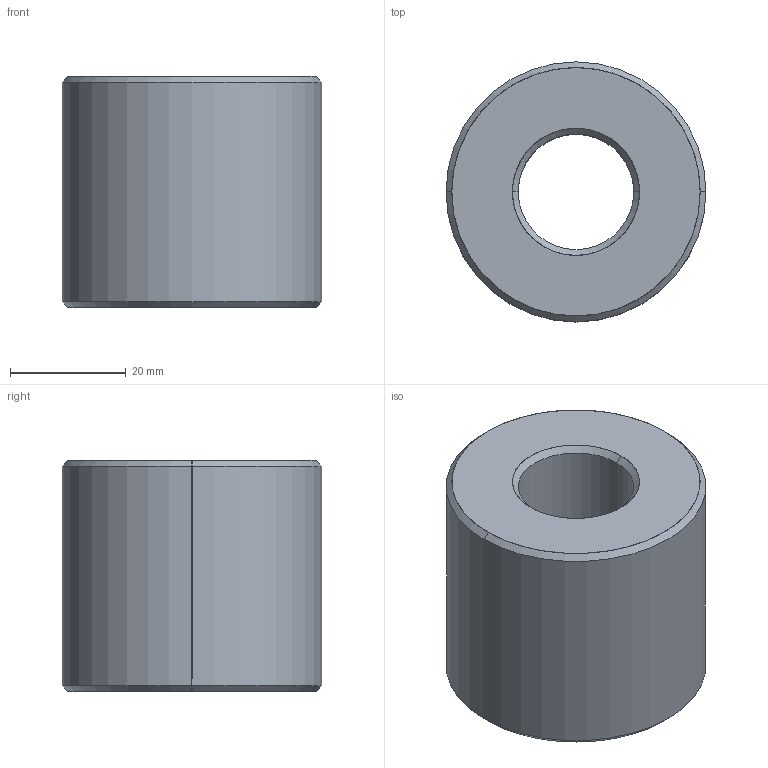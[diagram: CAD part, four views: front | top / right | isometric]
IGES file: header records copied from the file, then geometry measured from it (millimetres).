
Start section: SolidWorks IGES file using analytic representation for surfaces
Global section: file name: C:\Users\ianosborn\Desktop\L1330_v2\L1330_v2_20241024_IGES\L1330.R20-08.igs; native system: SolidWorks 2019; preprocessor: SolidWorks 2019; author: IanOsborn; date: 241024.102654; units: millimetre
Bounding box: 45 x 45 x 40 mm (x, y, z)
Surface area: 10481.4 mm2 (no closed solid volume)
Topology: 0 solids, 0 shells, 14 faces, 240 edges, 240 vertices
Faces by surface type: revolution 12, bspline 2
